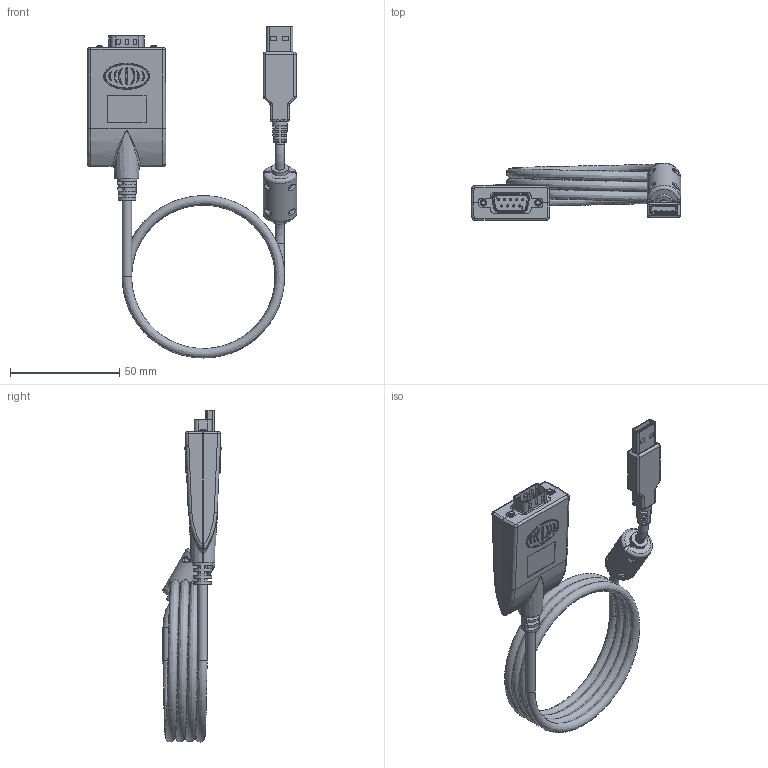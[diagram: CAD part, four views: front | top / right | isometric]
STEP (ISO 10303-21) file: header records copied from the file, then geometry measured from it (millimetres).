
FILE_DESCRIPTION(/* description */ (''),/* implementation_level */ '2;1');
FILE_NAME(/* name */ '/Users/leo/Desktop/Coolgear May/GM-FTDI-LED/GM-FTDI-LED Model3D LPV1.step',/* time_stamp */ '2021-06-03T12:23:45-04:00',/* author */ (''),/* organization */ (''),/* preprocessor_version */ 'ST-DEVELOPER v18.1',/* originating_system */ 'Autodesk Translation Framework v10.9.0.1377',/* authorisation */ '');
FILE_SCHEMA (('AUTOMOTIVE_DESIGN { 1 0 10303 214 3 1 1 }'));
Products named in the file (1): FusionComponent
Bounding box: 95.83 x 26.63 x 152.04 mm (x, y, z)
Volume: 29727.7 mm3; surface area: 35890.4 mm2
Topology: 2 solids, 2 shells, 1195 faces, 3160 edges, 2016 vertices
Faces by surface type: plane 574, cylinder 314, bspline 173, torus 54, cone 48, sphere 32
Full cylindrical faces by diameter (mm): 0.635 x9, 0.991 x9, 1.524 x9, 2.02 x6, 2.845 x4, 3.048 x2, 4.3 x8, 5.563 x2, 8 x2, 10 x2, 10.4 x2, 15.4 x1
Entity records: 49352 total; most frequent: CARTESIAN_POINT 20691, ORIENTED_EDGE 6252, DIRECTION 5601, EDGE_CURVE 3126, AXIS2_PLACEMENT_3D 2041, VERTEX_POINT 2016, LINE 1519, VECTOR 1519
